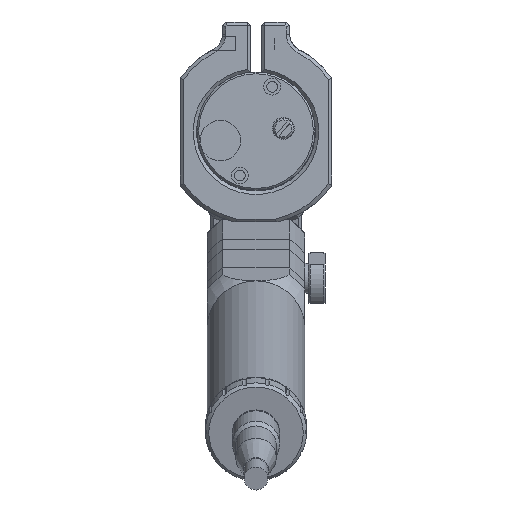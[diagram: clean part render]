
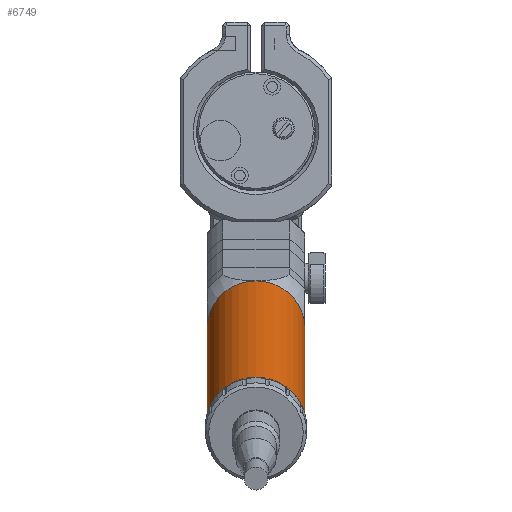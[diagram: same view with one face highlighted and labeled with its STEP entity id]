
A CAD part, top view. The second image highlights one B-rep face of the part: STEP entity #6749.
In plain terms, the highlighted cylindrical face has radius 14.5 mm (diameter 29 mm), a full revolution.
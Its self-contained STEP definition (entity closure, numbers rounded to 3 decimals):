
#205 = EDGE_CURVE ( 'NONE', #12174, #11419, #13666, .T. ) ;
#292 = CIRCLE ( 'NONE', #24557, 14.5 ) ;
#529 = VERTEX_POINT ( 'NONE', #9333 ) ;
#649 = CIRCLE ( 'NONE', #16397, 14.5 ) ;
#1448 = ORIENTED_EDGE ( 'NONE', *, *, #205, .T. ) ;
#2836 = CARTESIAN_POINT ( 'NONE',  ( -37.897, -72.923, 1187.903 ) ) ;
#3553 = AXIS2_PLACEMENT_3D ( 'NONE', #5707, #14264, #22836 ) ;
#4198 = DIRECTION ( 'NONE',  ( -1., 0., 0. ) ) ;
#4688 = AXIS2_PLACEMENT_3D ( 'NONE', #8431, #17134, #4198 ) ;
#5439 = CARTESIAN_POINT ( 'NONE',  ( -37.897, -43.961, 1079.816 ) ) ;
#5707 = CARTESIAN_POINT ( 'NONE',  ( -37.897, -43.961, 1079.816 ) ) ;
#6749 = ADVANCED_FACE ( 'NONE', ( #18341, #7819 ), #16385, .T. ) ;
#7084 = ORIENTED_EDGE ( 'NONE', *, *, #22909, .T. ) ;
#7490 = CIRCLE ( 'NONE', #23181, 14.5 ) ;
#7819 = FACE_OUTER_BOUND ( 'NONE', #21530, .T. ) ;
#7881 = EDGE_LOOP ( 'NONE', ( #22619 ) ) ;
#8256 = CARTESIAN_POINT ( 'NONE',  ( -37.897, -43.961, 1079.816 ) ) ;
#8431 = CARTESIAN_POINT ( 'NONE',  ( -37.897, -43.961, 1079.816 ) ) ;
#8474 = CARTESIAN_POINT ( 'NONE',  ( -37.897, -43.961, 1079.816 ) ) ;
#9333 = CARTESIAN_POINT ( 'NONE',  ( -52.397, -43.961, 1079.816 ) ) ;
#11412 = DIRECTION ( 'NONE',  ( 0., 0.259, -0.966 ) ) ;
#11419 = VERTEX_POINT ( 'NONE', #23957 ) ;
#12174 = VERTEX_POINT ( 'NONE', #12643 ) ;
#12643 = CARTESIAN_POINT ( 'NONE',  ( -37.897, -57.967, 1076.063 ) ) ;
#13387 = VERTEX_POINT ( 'NONE', #15062 ) ;
#13527 = CIRCLE ( 'NONE', #18033, 14.5 ) ;
#13666 = CIRCLE ( 'NONE', #4688, 14.5 ) ;
#14264 = DIRECTION ( 'NONE',  ( 0., 0.259, -0.966 ) ) ;
#14610 = ORIENTED_EDGE ( 'NONE', *, *, #20416, .T. ) ;
#15062 = CARTESIAN_POINT ( 'NONE',  ( -37.897, -29.955, 1083.568 ) ) ;
#15987 = DIRECTION ( 'NONE',  ( 0., -0.259, 0.966 ) ) ;
#16385 = CYLINDRICAL_SURFACE ( 'NONE', #3553, 14.5 ) ;
#16397 = AXIS2_PLACEMENT_3D ( 'NONE', #8256, #23264, #17091 ) ;
#17091 = DIRECTION ( 'NONE',  ( -1., 0., 0. ) ) ;
#17134 = DIRECTION ( 'NONE',  ( 0., -0.259, 0.966 ) ) ;
#17454 = DIRECTION ( 'NONE',  ( 0., -0.259, 0.966 ) ) ;
#17599 = DIRECTION ( 'NONE',  ( -1., 0., 0. ) ) ;
#18033 = AXIS2_PLACEMENT_3D ( 'NONE', #5439, #15987, #24831 ) ;
#18341 = FACE_OUTER_BOUND ( 'NONE', #7881, .T. ) ;
#19560 = VERTEX_POINT ( 'NONE', #21663 ) ;
#20416 = EDGE_CURVE ( 'NONE', #11419, #13387, #649, .T. ) ;
#21530 = EDGE_LOOP ( 'NONE', ( #7084, #1448, #14610, #24725 ) ) ;
#21663 = CARTESIAN_POINT ( 'NONE',  ( -52.397, -72.923, 1187.903 ) ) ;
#22187 = EDGE_CURVE ( 'NONE', #19560, #19560, #7490, .T. ) ;
#22619 = ORIENTED_EDGE ( 'NONE', *, *, #22187, .T. ) ;
#22644 = DIRECTION ( 'NONE',  ( -1., 0., 0. ) ) ;
#22836 = DIRECTION ( 'NONE',  ( -1., 0., 0. ) ) ;
#22909 = EDGE_CURVE ( 'NONE', #529, #12174, #292, .T. ) ;
#23181 = AXIS2_PLACEMENT_3D ( 'NONE', #2836, #11412, #22644 ) ;
#23264 = DIRECTION ( 'NONE',  ( 0., -0.259, 0.966 ) ) ;
#23957 = CARTESIAN_POINT ( 'NONE',  ( -23.397, -43.961, 1079.816 ) ) ;
#24557 = AXIS2_PLACEMENT_3D ( 'NONE', #8474, #17454, #17599 ) ;
#24725 = ORIENTED_EDGE ( 'NONE', *, *, #25695, .T. ) ;
#24831 = DIRECTION ( 'NONE',  ( -1., 0., 0. ) ) ;
#25695 = EDGE_CURVE ( 'NONE', #13387, #529, #13527, .T. ) ;
